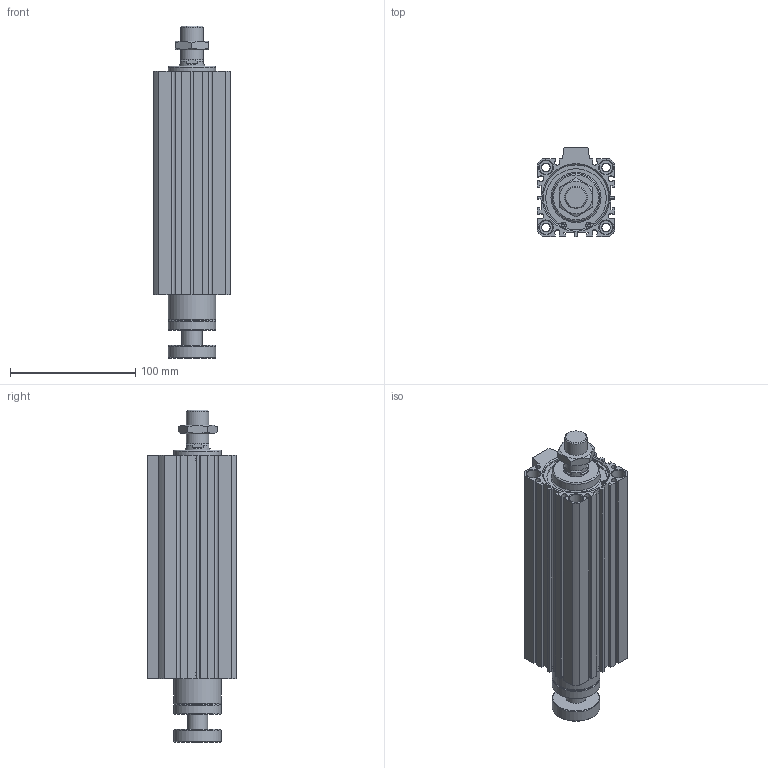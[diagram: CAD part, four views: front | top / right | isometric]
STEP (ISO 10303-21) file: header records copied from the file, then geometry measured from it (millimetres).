
FILE_DESCRIPTION((''),'2;1');
FILE_NAME('I:\3D電子目錄\氣缸\JDAR\JDAR-B\JDAR50-B\JDAR50-B\JDAR50x150-B.stp','2007-09-05T11:42:31',('Administrator'),(''),'Autodesk Inventor 11','Autodesk Inventor 11','');
FILE_SCHEMA(('AUTOMOTIVE_DESIGN { 1 0 10303 214 1 1 1 1 }'));
Length unit declared in the file: millimetre
Products named in the file (3): JDAR50-B; R 形環 52
Assembly tree (3 placements, depth 2):
  JDAR50-B
    JDAR50-B
    R 形環 52  x2
Bounding box: 62 x 71 x 265.3 mm (x, y, z)
Volume: 681294.4 mm3; surface area: 111270.1 mm2
Topology: 3 solids, 3 shells, 204 faces, 493 edges, 321 vertices
Faces by surface type: plane 119, cylinder 56, cone 25, bspline 2, torus 2
Full cylindrical faces by diameter (mm): 2.3 x4, 2.7 x2, 6.8 x4, 11 x8, 16 x1, 18 x2, 20 x1, 38 x4, 52 x4, 55 x2
Entity records: 5422 total; most frequent: CARTESIAN_POINT 1023, DIRECTION 907, ORIENTED_EDGE 804, EDGE_CURVE 402, AXIS2_PLACEMENT_3D 329, VERTEX_POINT 295, EDGE_LOOP 285, VECTOR 249
